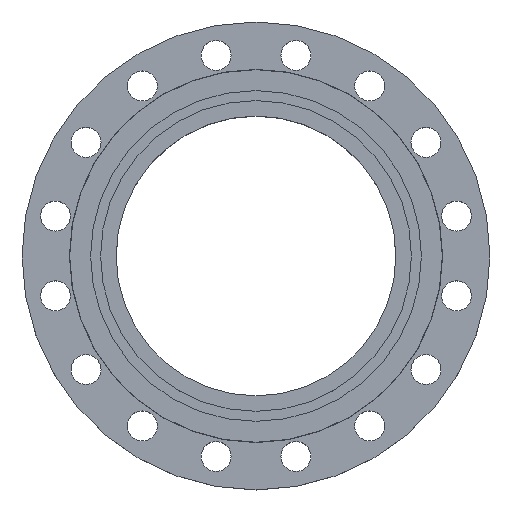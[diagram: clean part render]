
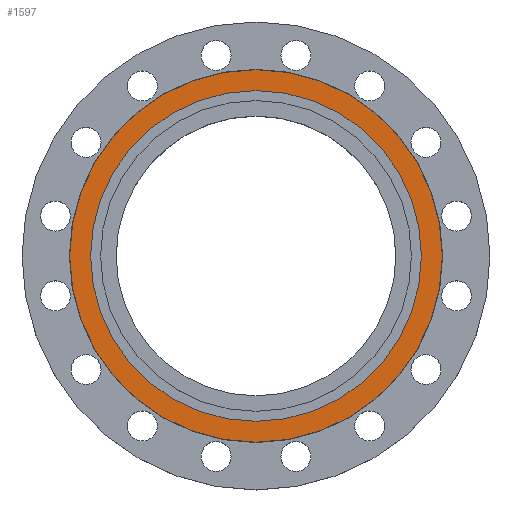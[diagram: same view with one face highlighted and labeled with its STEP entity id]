
A CAD part, top view. The second image highlights one B-rep face of the part: STEP entity #1597.
In plain terms, the highlighted planar face has unit normal (0, 0, 1).
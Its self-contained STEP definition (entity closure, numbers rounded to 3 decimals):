
#76 = VERTEX_POINT ( 'NONE', #674 ) ;
#198 = AXIS2_PLACEMENT_3D ( 'NONE', #1824, #1822, #1818 ) ;
#222 = CIRCLE ( 'NONE', #198, 205. ) ;
#250 = DIRECTION ( 'NONE',  ( -1., 0., 0. ) ) ;
#254 = DIRECTION ( 'NONE',  ( 0., 0., -1. ) ) ;
#256 = CARTESIAN_POINT ( 'NONE',  ( 0., 0., 0. ) ) ;
#389 = CIRCLE ( 'NONE', #410, 205. ) ;
#404 = CARTESIAN_POINT ( 'NONE',  ( -205., 0., 0. ) ) ;
#410 = AXIS2_PLACEMENT_3D ( 'NONE', #1872, #1869, #1866 ) ;
#436 = DIRECTION ( 'NONE',  ( -1., 0., 0. ) ) ;
#438 = DIRECTION ( 'NONE',  ( 0., 0., -1. ) ) ;
#441 = CARTESIAN_POINT ( 'NONE',  ( 0., 0., 0. ) ) ;
#457 = CARTESIAN_POINT ( 'NONE',  ( 182., 0., 0. ) ) ;
#569 = CIRCLE ( 'NONE', #742, 182. ) ;
#674 = CARTESIAN_POINT ( 'NONE',  ( -182., 0., 0. ) ) ;
#733 = EDGE_LOOP ( 'NONE', ( #1663, #1662 ) ) ;
#742 = AXIS2_PLACEMENT_3D ( 'NONE', #441, #438, #436 ) ;
#784 = EDGE_CURVE ( 'NONE', #1563, #76, #569, .T. ) ;
#816 = VERTEX_POINT ( 'NONE', #404 ) ;
#1041 = AXIS2_PLACEMENT_3D ( 'NONE', #1195, #1194, #1177 ) ;
#1108 = EDGE_LOOP ( 'NONE', ( #1666, #1665 ) ) ;
#1177 = DIRECTION ( 'NONE',  ( 1., 0., 0. ) ) ;
#1194 = DIRECTION ( 'NONE',  ( 0., 0., 1. ) ) ;
#1195 = CARTESIAN_POINT ( 'NONE',  ( 0., 0., 0. ) ) ;
#1196 = EDGE_CURVE ( 'NONE', #816, #1261, #389, .T. ) ;
#1200 = PLANE ( 'NONE',  #1041 ) ;
#1209 = FACE_BOUND ( 'NONE', #733, .T. ) ;
#1215 = FACE_OUTER_BOUND ( 'NONE', #1108, .T. ) ;
#1239 = EDGE_CURVE ( 'NONE', #1261, #816, #222, .T. ) ;
#1261 = VERTEX_POINT ( 'NONE', #1798 ) ;
#1275 = CIRCLE ( 'NONE', #1277, 182. ) ;
#1277 = AXIS2_PLACEMENT_3D ( 'NONE', #256, #254, #250 ) ;
#1563 = VERTEX_POINT ( 'NONE', #457 ) ;
#1597 = ADVANCED_FACE ( 'NONE', ( #1215, #1209 ), #1200, .T. ) ;
#1662 = ORIENTED_EDGE ( 'NONE', *, *, #784, .T. ) ;
#1663 = ORIENTED_EDGE ( 'NONE', *, *, #1749, .T. ) ;
#1665 = ORIENTED_EDGE ( 'NONE', *, *, #1239, .F. ) ;
#1666 = ORIENTED_EDGE ( 'NONE', *, *, #1196, .F. ) ;
#1749 = EDGE_CURVE ( 'NONE', #76, #1563, #1275, .T. ) ;
#1798 = CARTESIAN_POINT ( 'NONE',  ( 205., 0., 0. ) ) ;
#1818 = DIRECTION ( 'NONE',  ( -1., 0., 0. ) ) ;
#1822 = DIRECTION ( 'NONE',  ( 0., 0., -1. ) ) ;
#1824 = CARTESIAN_POINT ( 'NONE',  ( 0., 0., 0. ) ) ;
#1866 = DIRECTION ( 'NONE',  ( -1., 0., 0. ) ) ;
#1869 = DIRECTION ( 'NONE',  ( 0., 0., -1. ) ) ;
#1872 = CARTESIAN_POINT ( 'NONE',  ( 0., 0., 0. ) ) ;
